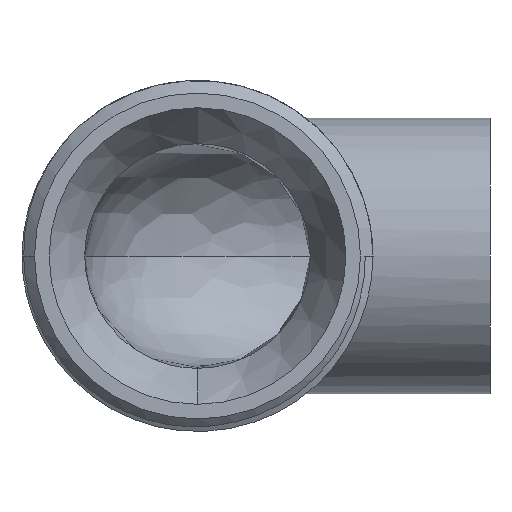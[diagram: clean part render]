
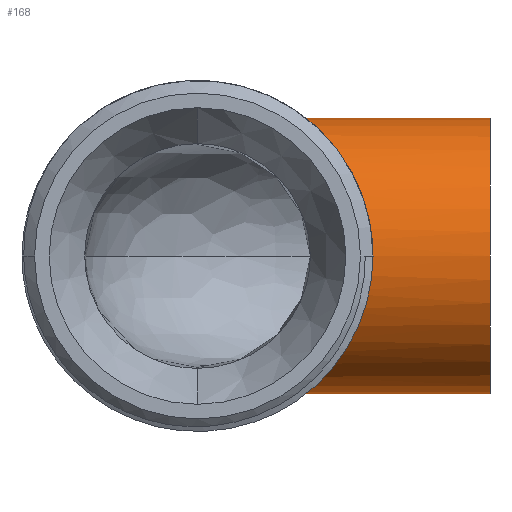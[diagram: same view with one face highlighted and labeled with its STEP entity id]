
A CAD part, front view. The second image highlights one B-rep face of the part: STEP entity #168.
In plain terms, the highlighted cylindrical face has radius 16.5 mm (diameter 33 mm), a partial arc.
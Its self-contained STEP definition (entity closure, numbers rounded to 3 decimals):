
#101 = EDGE_CURVE ( 'NONE', #230, #179, #862, .T. ) ;
#155 = ORIENTED_EDGE ( 'NONE', *, *, #156, .T. ) ;
#156 = EDGE_CURVE ( 'NONE', #307, #157, #1069, .T. ) ;
#157 = VERTEX_POINT ( 'NONE', #1068 ) ;
#158 = ORIENTED_EDGE ( 'NONE', *, *, #172, .F. ) ;
#167 = EDGE_CURVE ( 'NONE', #232, #230, #1195, .T. ) ;
#168 = ADVANCED_FACE ( 'NONE', ( #1191 ), #1190, .T. ) ;
#169 = EDGE_LOOP ( 'NONE', ( #170, #171, #325, #326, #328, #155, #158 ) ) ;
#170 = ORIENTED_EDGE ( 'NONE', *, *, #231, .F. ) ;
#171 = ORIENTED_EDGE ( 'NONE', *, *, #167, .T. ) ;
#172 = EDGE_CURVE ( 'NONE', #219, #157, #1137, .T. ) ;
#179 = VERTEX_POINT ( 'NONE', #1126 ) ;
#219 = VERTEX_POINT ( 'NONE', #1686 ) ;
#221 = EDGE_CURVE ( 'NONE', #239, #307, #1231, .T. ) ;
#230 = VERTEX_POINT ( 'NONE', #1914 ) ;
#231 = EDGE_CURVE ( 'NONE', #232, #219, #1913, .T. ) ;
#232 = VERTEX_POINT ( 'NONE', #1909 ) ;
#239 = VERTEX_POINT ( 'NONE', #1902 ) ;
#307 = VERTEX_POINT ( 'NONE', #2239 ) ;
#325 = ORIENTED_EDGE ( 'NONE', *, *, #101, .T. ) ;
#326 = ORIENTED_EDGE ( 'NONE', *, *, #327, .F. ) ;
#327 = EDGE_CURVE ( 'NONE', #239, #179, #2609, .T. ) ;
#328 = ORIENTED_EDGE ( 'NONE', *, *, #221, .T. ) ;
#859 = DIRECTION ( 'NONE',  ( -1., 0., 0. ) ) ;
#860 = VECTOR ( 'NONE', #859, 1000. ) ;
#861 = CARTESIAN_POINT ( 'NONE',  ( 0., 0., 16.5 ) ) ;
#862 = LINE ( 'NONE', #861, #860 ) ;
#1061 = CARTESIAN_POINT ( 'NONE',  ( 16.268, -16.5, -0.319 ) ) ;
#1062 = CARTESIAN_POINT ( 'NONE',  ( 16.268, -16.5, 0. ) ) ;
#1065 = CARTESIAN_POINT ( 'NONE',  ( 16.215, -16.425, -1.603 ) ) ;
#1066 = CARTESIAN_POINT ( 'NONE',  ( 16.235, -16.453, -1.28 ) ) ;
#1067 = CARTESIAN_POINT ( 'NONE',  ( 16.261, -16.491, -0.639 ) ) ;
#1068 = CARTESIAN_POINT ( 'NONE',  ( 12.5, -10.26, -12.922 ) ) ;
#1069 = B_SPLINE_CURVE_WITH_KNOTS ( 'NONE', 3,
 ( #1062, #1061, #1067, #1066, #1065, #1189, #1188, #1187, #1186, #1185, #1184, #1183, #1182, #1181, #1180, #1179, #1178, #1177, #1176, #1175, #1174, #1173 ),
 .UNSPECIFIED., .F., .F.,
 ( 4, 2, 2, 2, 2, 2, 2, 2, 2, 2, 4 ),
 ( 0.015, 0.016, 0.017, 0.019, 0.021, 0.022, 0.023, 0.025, 0.027, 0.029, 0.031 ),
 .UNSPECIFIED. ) ;
#1126 = CARTESIAN_POINT ( 'NONE',  ( 12.5, 0., 16.5 ) ) ;
#1133 = DIRECTION ( 'NONE',  ( 0., 0., 1. ) ) ;
#1134 = DIRECTION ( 'NONE',  ( -1., 0., 0. ) ) ;
#1135 = CARTESIAN_POINT ( 'NONE',  ( 12.5, 0., 0. ) ) ;
#1136 = AXIS2_PLACEMENT_3D ( 'NONE', #1135, #1134, #1133 ) ;
#1137 = CIRCLE ( 'NONE', #1136, 16.5 ) ;
#1138 = DIRECTION ( 'NONE',  ( 0., 0., 1. ) ) ;
#1139 = DIRECTION ( 'NONE',  ( -1., 0., 0. ) ) ;
#1140 = CARTESIAN_POINT ( 'NONE',  ( 0., 0., 0. ) ) ;
#1141 = AXIS2_PLACEMENT_3D ( 'NONE', #1140, #1139, #1138 ) ;
#1173 = CARTESIAN_POINT ( 'NONE',  ( 12.5, -10.26, -12.922 ) ) ;
#1174 = CARTESIAN_POINT ( 'NONE',  ( 12.781, -10.717, -12.559 ) ) ;
#1175 = CARTESIAN_POINT ( 'NONE',  ( 13.037, -11.159, -12.169 ) ) ;
#1176 = CARTESIAN_POINT ( 'NONE',  ( 13.523, -12.006, -11.334 ) ) ;
#1177 = CARTESIAN_POINT ( 'NONE',  ( 13.751, -12.41, -10.89 ) ) ;
#1178 = CARTESIAN_POINT ( 'NONE',  ( 14.189, -13.177, -9.949 ) ) ;
#1179 = CARTESIAN_POINT ( 'NONE',  ( 14.397, -13.537, -9.453 ) ) ;
#1180 = CARTESIAN_POINT ( 'NONE',  ( 14.789, -14.199, -8.426 ) ) ;
#1181 = CARTESIAN_POINT ( 'NONE',  ( 14.973, -14.503, -7.893 ) ) ;
#1182 = CARTESIAN_POINT ( 'NONE',  ( 15.228, -14.915, -7.063 ) ) ;
#1183 = CARTESIAN_POINT ( 'NONE',  ( 15.31, -15.046, -6.781 ) ) ;
#1184 = CARTESIAN_POINT ( 'NONE',  ( 15.465, -15.292, -6.206 ) ) ;
#1185 = CARTESIAN_POINT ( 'NONE',  ( 15.539, -15.408, -5.912 ) ) ;
#1186 = CARTESIAN_POINT ( 'NONE',  ( 15.747, -15.729, -5.023 ) ) ;
#1187 = CARTESIAN_POINT ( 'NONE',  ( 15.865, -15.91, -4.419 ) ) ;
#1188 = CARTESIAN_POINT ( 'NONE',  ( 16.06, -16.201, -3.189 ) ) ;
#1189 = CARTESIAN_POINT ( 'NONE',  ( 16.137, -16.313, -2.562 ) ) ;
#1190 = CYLINDRICAL_SURFACE ( 'NONE', #1141, 16.5 ) ;
#1191 = FACE_OUTER_BOUND ( 'NONE', #169, .T. ) ;
#1192 = DIRECTION ( 'NONE',  ( 0., 0., 1. ) ) ;
#1193 = DIRECTION ( 'NONE',  ( -1., 0., 0. ) ) ;
#1194 = AXIS2_PLACEMENT_3D ( 'NONE', #1201, #1193, #1192 ) ;
#1195 = CIRCLE ( 'NONE', #1194, 16.5 ) ;
#1201 = CARTESIAN_POINT ( 'NONE',  ( 35., 0., 0. ) ) ;
#1231 = B_SPLINE_CURVE_WITH_KNOTS ( 'NONE', 3,
 ( #1311, #1310, #1309, #1308, #1307, #1306, #1305, #1304, #1303, #1685, #1684, #1683, #1682, #1681 ),
 .UNSPECIFIED., .F., .F.,
 ( 4, 2, 2, 2, 2, 2, 4 ),
 ( 0., 0.002, 0.004, 0.006, 0.008, 0.012, 0.015 ),
 .UNSPECIFIED. ) ;
#1303 = CARTESIAN_POINT ( 'NONE',  ( 14.976, -14.507, 7.885 ) ) ;
#1304 = CARTESIAN_POINT ( 'NONE',  ( 14.791, -14.203, 8.421 ) ) ;
#1305 = CARTESIAN_POINT ( 'NONE',  ( 14.395, -13.533, 9.461 ) ) ;
#1306 = CARTESIAN_POINT ( 'NONE',  ( 14.187, -13.173, 9.954 ) ) ;
#1307 = CARTESIAN_POINT ( 'NONE',  ( 13.752, -12.411, 10.89 ) ) ;
#1308 = CARTESIAN_POINT ( 'NONE',  ( 13.524, -12.007, 11.332 ) ) ;
#1309 = CARTESIAN_POINT ( 'NONE',  ( 13.038, -11.161, 12.167 ) ) ;
#1310 = CARTESIAN_POINT ( 'NONE',  ( 12.782, -10.719, 12.558 ) ) ;
#1311 = CARTESIAN_POINT ( 'NONE',  ( 12.5, -10.26, 12.922 ) ) ;
#1681 = CARTESIAN_POINT ( 'NONE',  ( 16.268, -16.5, 0. ) ) ;
#1682 = CARTESIAN_POINT ( 'NONE',  ( 16.268, -16.5, 1.282 ) ) ;
#1683 = CARTESIAN_POINT ( 'NONE',  ( 16.161, -16.352, 2.551 ) ) ;
#1684 = CARTESIAN_POINT ( 'NONE',  ( 15.765, -15.76, 5.053 ) ) ;
#1685 = CARTESIAN_POINT ( 'NONE',  ( 15.485, -15.33, 6.225 ) ) ;
#1686 = CARTESIAN_POINT ( 'NONE',  ( 12.5, 0., -16.5 ) ) ;
#1902 = CARTESIAN_POINT ( 'NONE',  ( 12.5, -10.26, 12.922 ) ) ;
#1909 = CARTESIAN_POINT ( 'NONE',  ( 35., 0., -16.5 ) ) ;
#1910 = DIRECTION ( 'NONE',  ( -1., 0., 0. ) ) ;
#1911 = VECTOR ( 'NONE', #1910, 1000. ) ;
#1912 = CARTESIAN_POINT ( 'NONE',  ( 0., 0., -16.5 ) ) ;
#1913 = LINE ( 'NONE', #1912, #1911 ) ;
#1914 = CARTESIAN_POINT ( 'NONE',  ( 35., 0., 16.5 ) ) ;
#2239 = CARTESIAN_POINT ( 'NONE',  ( 16.268, -16.5, 0. ) ) ;
#2605 = DIRECTION ( 'NONE',  ( 0., 0., 1. ) ) ;
#2606 = DIRECTION ( 'NONE',  ( -1., 0., 0. ) ) ;
#2607 = CARTESIAN_POINT ( 'NONE',  ( 12.5, 0., 0. ) ) ;
#2608 = AXIS2_PLACEMENT_3D ( 'NONE', #2607, #2606, #2605 ) ;
#2609 = CIRCLE ( 'NONE', #2608, 16.5 ) ;
